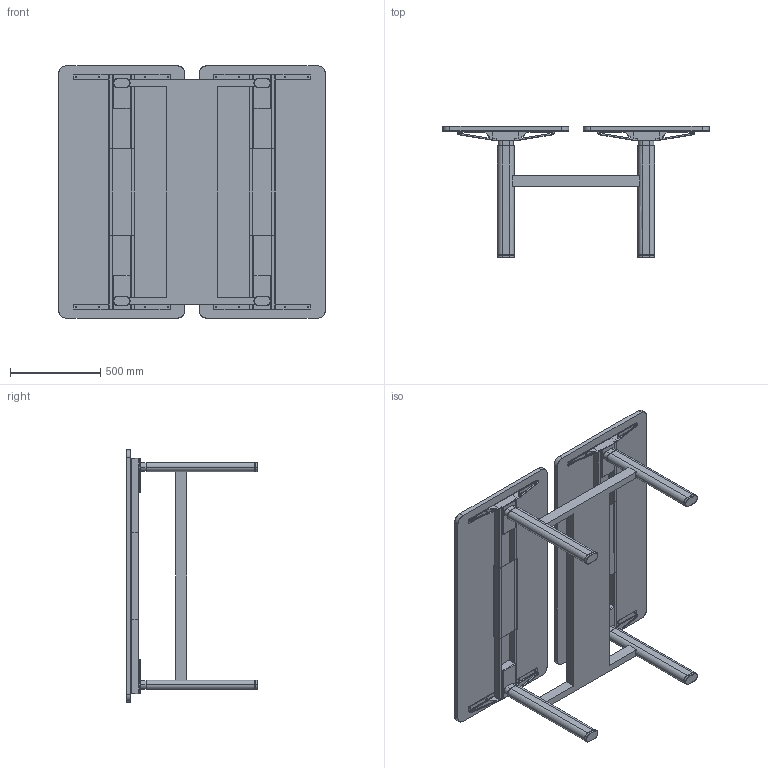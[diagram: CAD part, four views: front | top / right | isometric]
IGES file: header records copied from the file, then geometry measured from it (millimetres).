
Start section: SolidWorks IGES file using analytic representation for surfaces
Global section: file name: C:\Users\simone.cerana\OneDrive - Gruppo Tecno\Desktop\CHINA\DISEGNI DI SERIE\ASSIEMI LISTINO\AXIS LISTINO\AX1414ST.IGS; native system: SolidWorks 2024; preprocessor: SolidWorks 2024; author: simone.cerana; date: 260508.091639; units: millimetre
Bounding box: 1480 x 729.39 x 1400 mm (x, y, z)
Surface area: 6937425.3 mm2 (no closed solid volume)
Topology: 0 solids, 0 shells, 542 faces, 6352 edges, 6344 vertices
Faces by surface type: revolution 272, bspline 270
